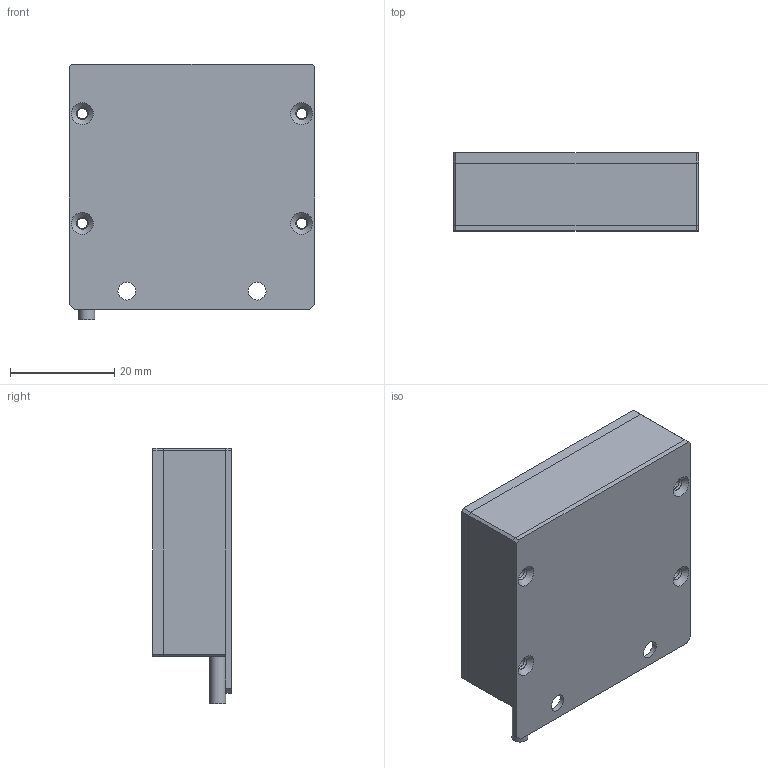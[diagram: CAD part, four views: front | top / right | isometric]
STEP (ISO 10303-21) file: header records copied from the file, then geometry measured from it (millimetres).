
FILE_DESCRIPTION(/* description */ (''),/* implementation_level */ '2;1');
FILE_NAME(/* name */ 'C:\#Vault-WorkDir\Konstruktions-Dokumente\Projekte\Zubehör allgemein\Falcon Beleuchtungen\153-00758_LF 36 xD-24-KFL5.stp',/* time_stamp */ '2018-07-25T09:55:59+02:00',/* author */ ('SensoPart'),/* organization */ ('SensoPart'),/* preprocessor_version */ 'ST-DEVELOPER v17',/* originating_system */ 'Autodesk Inventor 2018',/* authorisation */ '');
FILE_SCHEMA (('AUTOMOTIVE_DESIGN { 1 0 10303 214 3 1 1 }'));
Length unit declared in the file: millimetre
Products named in the file (1): GH-ENG-0026185
Bounding box: 47 x 15 x 49 mm (x, y, z)
Volume: 12530.7 mm3; surface area: 12087.4 mm2
Topology: 2 solids, 2 shells, 92 faces, 262 edges, 182 vertices
Faces by surface type: plane 52, cylinder 24, cone 16
Full cylindrical faces by diameter (mm): 2 x4, 2.3 x8, 3.1 x1, 3.4 x2
Entity records: 3292 total; most frequent: DIRECTION 565, CARTESIAN_POINT 549, ORIENTED_EDGE 536, EDGE_CURVE 268, AXIS2_PLACEMENT_3D 204, VERTEX_POINT 188, LINE 157, VECTOR 157
